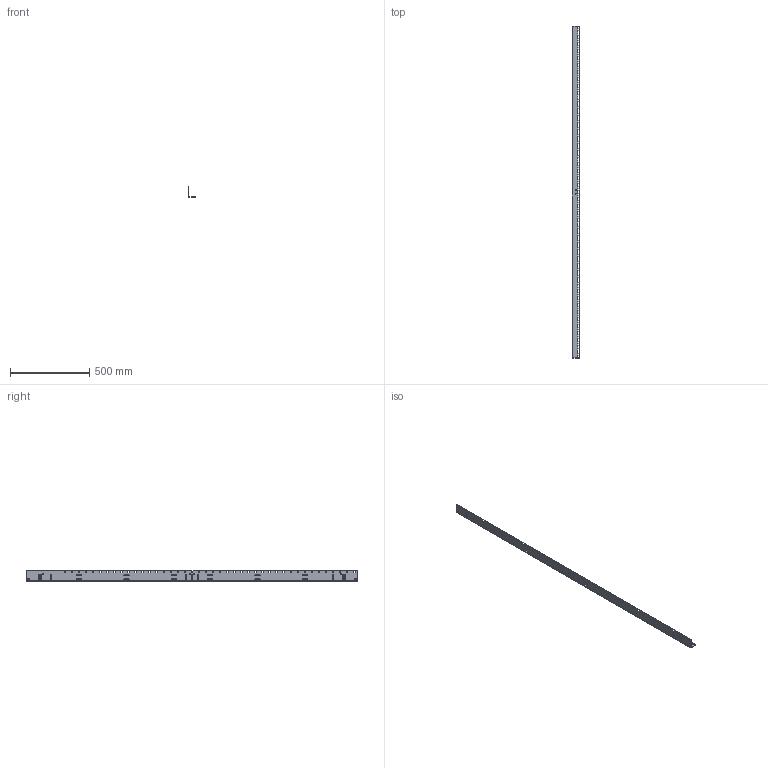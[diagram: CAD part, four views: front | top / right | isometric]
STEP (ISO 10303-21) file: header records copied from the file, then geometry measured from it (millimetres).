
FILE_DESCRIPTION(('2200mm Thru Hole Rack Angle'),'2;1');
FILE_NAME('D:\a00506\p-ra1922thl1.stp','2003-06-17T10:35:19',( 'Rick Hagglund'),('Hoffman Enclosures Inc.'),'I-DEAS Master Series 9', 'UNIX','Yes');
FILE_SCHEMA(('AUTOMOTIVE_DESIGN { 1 0 10303 214 0 1 1 1 }'));
Length unit declared in the file: inch
Products named in the file (1): 87569989
Bounding box: 48.11 x 2091.41 x 66.67 mm (x, y, z)
Volume: 518911.3 mm3; surface area: 453756.4 mm2
Topology: 1 solids, 1 shells, 1065 faces, 3034 edges, 2020 vertices
Faces by surface type: bspline 1065
Entity records: 33729 total; most frequent: CARTESIAN_POINT 14485, ORIENTED_EDGE 6068, EDGE_CURVE 3034, QUASI_UNIFORM_CURVE 2110, VERTEX_POINT 2020, EDGE_LOOP 1542, FACE_OUTER_BOUND 1065, ADVANCED_FACE 1065
